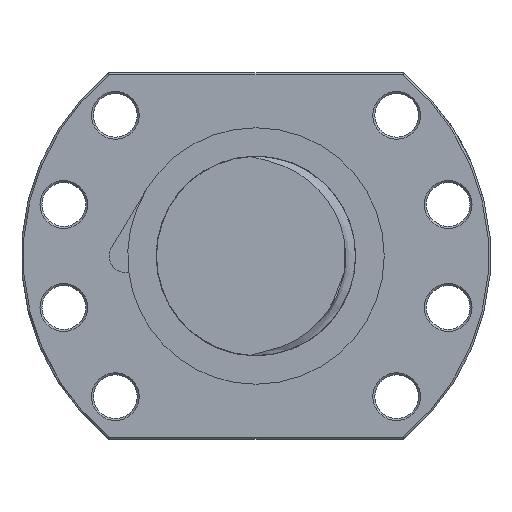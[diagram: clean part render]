
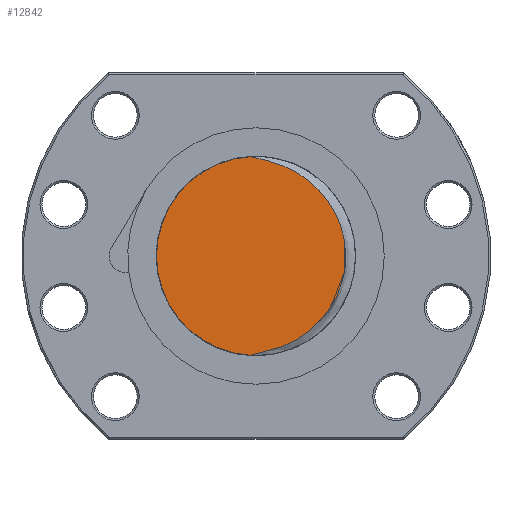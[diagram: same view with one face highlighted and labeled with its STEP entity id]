
A CAD part, left-side view. The second image highlights one B-rep face of the part: STEP entity #12842.
In plain terms, the highlighted planar face has unit normal (-1, 0, 0).
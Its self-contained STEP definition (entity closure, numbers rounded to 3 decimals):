
#6856 = CARTESIAN_POINT ( 'NONE',  ( -234., 1.384, -24.962 ) ) ;
#6955 = DIRECTION ( 'NONE',  ( 0., 1., 0. ) ) ;
#6956 = DIRECTION ( 'NONE',  ( 1., 0., 0. ) ) ;
#6957 = CARTESIAN_POINT ( 'NONE',  ( -234., 0., 0. ) ) ;
#6958 = AXIS2_PLACEMENT_3D ( 'NONE', #6957, #6956, #6955 ) ;
#6959 = CIRCLE ( 'NONE', #6958, 25. ) ;
#8376 = CARTESIAN_POINT ( 'NONE',  ( -234., 1.384, 24.962 ) ) ;
#12842 = ADVANCED_FACE ( 'NONE', ( #28280 ), #28275, .F. ) ;
#12843 = EDGE_LOOP ( 'NONE', ( #12844, #12845 ) ) ;
#12844 = ORIENTED_EDGE ( 'NONE', *, *, #12980, .F. ) ;
#12845 = ORIENTED_EDGE ( 'NONE', *, *, #12846, .T. ) ;
#12846 = EDGE_CURVE ( 'NONE', #12975, #13113, #28269, .T. ) ;
#12975 = VERTEX_POINT ( 'NONE', #6856 ) ;
#12980 = EDGE_CURVE ( 'NONE', #12975, #13113, #6959, .T. ) ;
#13113 = VERTEX_POINT ( 'NONE', #8376 ) ;
#28267 = CARTESIAN_POINT ( 'NONE',  ( -234., 1.004, -24.856 ) ) ;
#28268 = CARTESIAN_POINT ( 'NONE',  ( -234., 1.384, -24.962 ) ) ;
#28269 = B_SPLINE_CURVE_WITH_KNOTS ( 'NONE', 3,
 ( #28268, #28267, #28344, #28343, #28342, #28341, #28340, #28339, #28338, #28337, #28336, #28335, #28334, #28333, #28332, #28331, #28330, #28329, #28328, #28326, #28325, #28324, #28323, #28322, #28321, #28320, #28319, #28318, #28317, #28316, #28315, #28314, #28313, #28312, #28311, #28310, #28309, #28308, #28307, #28306, #28305, #28304, #28303, #28302, #28301, #28300, #28299, #28298, #28297, #28296, #28295, #28294, #28380, #28379, #28378, #28377, #28376, #28375, #28374 ),
 .UNSPECIFIED., .F., .F.,
 ( 4, 2, 2, 2, 2, 2, 2, 2, 2, 2, 2, 2, 2, 2, 2, 2, 1, 2, 2, 2, 2, 2, 2, 2, 2, 2, 2, 2, 2, 4 ),
 ( 0.001, 0.002, 0.003, 0.006, 0.008, 0.01, 0.013, 0.015, 0.02, 0.022, 0.025, 0.029, 0.032, 0.034, 0.039, 0.041, 0.043, 0.046, 0.048, 0.053, 0.055, 0.058, 0.062, 0.064, 0.065, 0.067, 0.072, 0.074, 0.075, 0.077 ),
 .UNSPECIFIED. ) ;
#28271 = DIRECTION ( 'NONE',  ( 0., 0., -1. ) ) ;
#28272 = DIRECTION ( 'NONE',  ( 1., 0., 0. ) ) ;
#28273 = CARTESIAN_POINT ( 'NONE',  ( -234., 0., 0. ) ) ;
#28274 = AXIS2_PLACEMENT_3D ( 'NONE', #28273, #28272, #28271 ) ;
#28275 = PLANE ( 'NONE',  #28274 ) ;
#28280 = FACE_OUTER_BOUND ( 'NONE', #12843, .T. ) ;
#28294 = CARTESIAN_POINT ( 'NONE',  ( -234., -4.762, 23.45 ) ) ;
#28295 = CARTESIAN_POINT ( 'NONE',  ( -234., -6.249, 22.93 ) ) ;
#28296 = CARTESIAN_POINT ( 'NONE',  ( -234., -8.396, 21.968 ) ) ;
#28297 = CARTESIAN_POINT ( 'NONE',  ( -234., -9.098, 21.617 ) ) ;
#28298 = CARTESIAN_POINT ( 'NONE',  ( -234., -10.13, 21.043 ) ) ;
#28299 = CARTESIAN_POINT ( 'NONE',  ( -234., -10.471, 20.843 ) ) ;
#28300 = CARTESIAN_POINT ( 'NONE',  ( -234., -11.145, 20.428 ) ) ;
#28301 = CARTESIAN_POINT ( 'NONE',  ( -234., -11.478, 20.211 ) ) ;
#28302 = CARTESIAN_POINT ( 'NONE',  ( -234., -13.11, 19.098 ) ) ;
#28303 = CARTESIAN_POINT ( 'NONE',  ( -234., -14.318, 18.099 ) ) ;
#28304 = CARTESIAN_POINT ( 'NONE',  ( -234., -15.983, 16.436 ) ) ;
#28305 = CARTESIAN_POINT ( 'NONE',  ( -234., -16.514, 15.854 ) ) ;
#28306 = CARTESIAN_POINT ( 'NONE',  ( -234., -17.522, 14.631 ) ) ;
#28307 = CARTESIAN_POINT ( 'NONE',  ( -234., -17.996, 13.996 ) ) ;
#28308 = CARTESIAN_POINT ( 'NONE',  ( -234., -19.312, 12.04 ) ) ;
#28309 = CARTESIAN_POINT ( 'NONE',  ( -234., -20.058, 10.663 ) ) ;
#28310 = CARTESIAN_POINT ( 'NONE',  ( -234., -20.973, 8.482 ) ) ;
#28311 = CARTESIAN_POINT ( 'NONE',  ( -234., -21.245, 7.732 ) ) ;
#28312 = CARTESIAN_POINT ( 'NONE',  ( -234., -21.708, 6.224 ) ) ;
#28313 = CARTESIAN_POINT ( 'NONE',  ( -234., -22.093, 4.702 ) ) ;
#28314 = CARTESIAN_POINT ( 'NONE',  ( -234., -22.328, 3.153 ) ) ;
#28315 = CARTESIAN_POINT ( 'NONE',  ( -234., -22.485, 1.59 ) ) ;
#28316 = CARTESIAN_POINT ( 'NONE',  ( -234., -22.524, 0.8 ) ) ;
#28317 = CARTESIAN_POINT ( 'NONE',  ( -234., -22.525, -1.58 ) ) ;
#28318 = CARTESIAN_POINT ( 'NONE',  ( -234., -22.368, -3.141 ) ) ;
#28319 = CARTESIAN_POINT ( 'NONE',  ( -234., -21.906, -5.444 ) ) ;
#28320 = CARTESIAN_POINT ( 'NONE',  ( -234., -21.713, -6.206 ) ) ;
#28321 = CARTESIAN_POINT ( 'NONE',  ( -234., -21.25, -7.716 ) ) ;
#28322 = CARTESIAN_POINT ( 'NONE',  ( -234., -20.979, -8.465 ) ) ;
#28323 = CARTESIAN_POINT ( 'NONE',  ( -234., -20.067, -10.644 ) ) ;
#28324 = CARTESIAN_POINT ( 'NONE',  ( -234., -19.324, -12.02 ) ) ;
#28325 = CARTESIAN_POINT ( 'NONE',  ( -234., -18.012, -13.973 ) ) ;
#28326 = CARTESIAN_POINT ( 'NONE',  ( -234., -17.541, -14.606 ) ) ;
#28328 = CARTESIAN_POINT ( 'NONE',  ( -234., -16.532, -15.832 ) ) ;
#28329 = CARTESIAN_POINT ( 'NONE',  ( -234., -16.002, -16.416 ) ) ;
#28330 = CARTESIAN_POINT ( 'NONE',  ( -234., -14.339, -18.082 ) ) ;
#28331 = CARTESIAN_POINT ( 'NONE',  ( -234., -13.133, -19.079 ) ) ;
#28332 = CARTESIAN_POINT ( 'NONE',  ( -234., -11.184, -20.413 ) ) ;
#28333 = CARTESIAN_POINT ( 'NONE',  ( -234., -10.508, -20.831 ) ) ;
#28334 = CARTESIAN_POINT ( 'NONE',  ( -234., -9.126, -21.603 ) ) ;
#28335 = CARTESIAN_POINT ( 'NONE',  ( -234., -8.421, -21.957 ) ) ;
#28336 = CARTESIAN_POINT ( 'NONE',  ( -234., -6.981, -22.603 ) ) ;
#28337 = CARTESIAN_POINT ( 'NONE',  ( -234., -6.248, -22.895 ) ) ;
#28338 = CARTESIAN_POINT ( 'NONE',  ( -234., -4.754, -23.424 ) ) ;
#28339 = CARTESIAN_POINT ( 'NONE',  ( -234., -3.997, -23.659 ) ) ;
#28340 = CARTESIAN_POINT ( 'NONE',  ( -234., -2.471, -24.078 ) ) ;
#28341 = CARTESIAN_POINT ( 'NONE',  ( -234., -1.702, -24.262 ) ) ;
#28342 = CARTESIAN_POINT ( 'NONE',  ( -234., -0.543, -24.519 ) ) ;
#28343 = CARTESIAN_POINT ( 'NONE',  ( -234., -0.156, -24.601 ) ) ;
#28344 = CARTESIAN_POINT ( 'NONE',  ( -234., 0.617, -24.771 ) ) ;
#28374 = CARTESIAN_POINT ( 'NONE',  ( -234., 1.384, 24.962 ) ) ;
#28375 = CARTESIAN_POINT ( 'NONE',  ( -234., 1.004, 24.856 ) ) ;
#28376 = CARTESIAN_POINT ( 'NONE',  ( -234., 0.617, 24.771 ) ) ;
#28377 = CARTESIAN_POINT ( 'NONE',  ( -234., -0.155, 24.601 ) ) ;
#28378 = CARTESIAN_POINT ( 'NONE',  ( -234., -0.543, 24.518 ) ) ;
#28379 = CARTESIAN_POINT ( 'NONE',  ( -234., -1.702, 24.261 ) ) ;
#28380 = CARTESIAN_POINT ( 'NONE',  ( -234., -2.471, 24.078 ) ) ;
